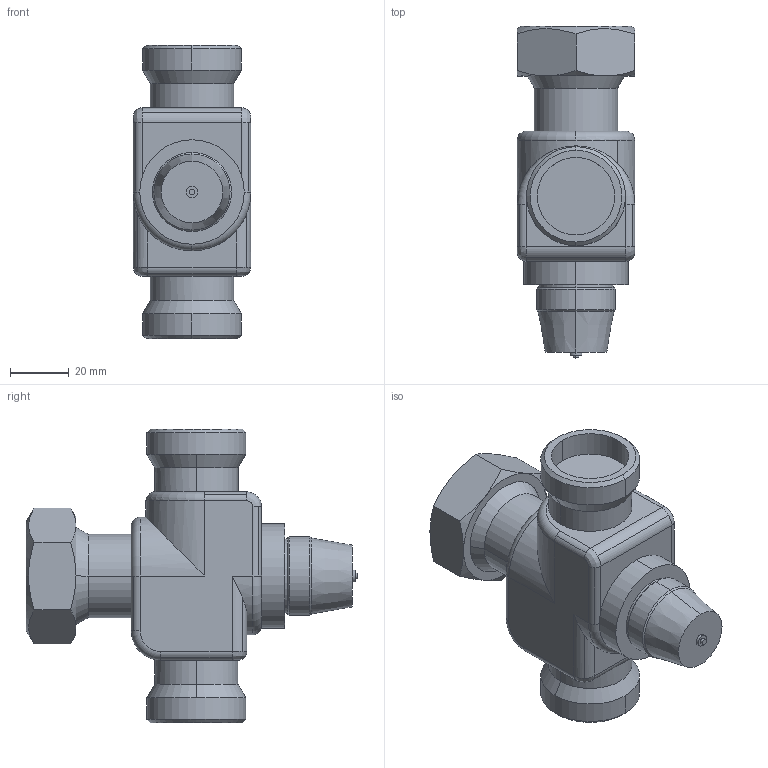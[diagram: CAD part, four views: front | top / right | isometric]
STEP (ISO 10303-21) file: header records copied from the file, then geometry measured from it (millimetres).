
FILE_DESCRIPTION((''),'2;1');
FILE_NAME('000160.stp','2006-09-29T17:20:08',(''),(''),'Mechanical Desktop 2006','Mechanical Desktop 2006',', , ');
FILE_SCHEMA(('AUTOMOTIVE_DESIGN { 1 2 10303 214 0 1 1 1 }'));
Length unit declared in the file: millimetre
Products named in the file (1): Product
Bounding box: 40 x 113 x 100 mm (x, y, z)
Volume: 163754.8 mm3; surface area: 36868.5 mm2
Topology: 11 solids, 11 shells, 138 faces, 301 edges, 187 vertices
Faces by surface type: cylinder 56, bspline 37, plane 23, cone 14, torus 8
Entity records: 4270 total; most frequent: CARTESIAN_POINT 1248, DIRECTION 644, ORIENTED_EDGE 602, EDGE_CURVE 301, AXIS2_PLACEMENT_3D 269, VERTEX_POINT 187, CIRCLE 165, EDGE_LOOP 146
